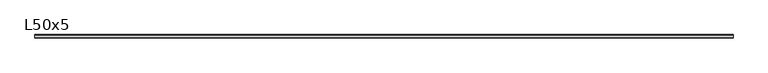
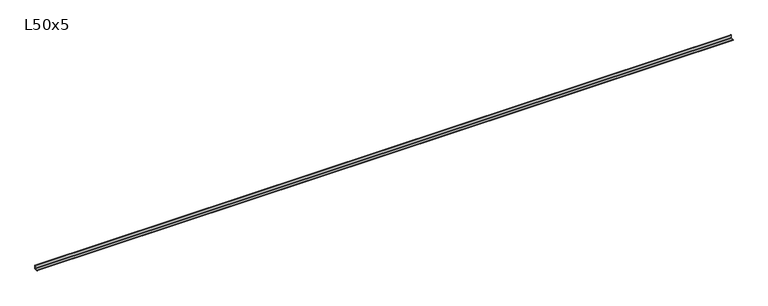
"""IFC4 building model written with IfcOpenShell, lengths in millimetres: beam geometry, Cornière à ailes égales : L50x5."""

from ifc_helpers import new_model, si_unit, point, frame, frame_2d, origin, place, context, project, spatial, polyline, circle_curve, trimmed, segment, composite_curve, outline, extrude, source, transform, mapped, element, save


def l50x5_54bbfbbe(model_context):
    return source(origin(), model_context, "Body", "SweptSolid", [
        extrude(outline(composite_curve([segment(polyline([(14.0, -14.0), (-36.0, -14.0), (-36.0, -12.5)]), True, "CONTINUOUS"), segment(trimmed(circle_curve(frame_2d((-32.5, -12.5)), 3.5), [point((-36.0, -12.5))], [point((-32.5, -9.0))], False, "CARTESIAN"), True, "CONTINUOUS"), segment(polyline([(-32.5, -9.0), (2.0, -9.0)]), True, "CONTINUOUS"), segment(trimmed(circle_curve(frame_2d((2.0, -2.0)), 7.0), [point((2.0, -9.0))], [point((9.0, -2.0))], True, "CARTESIAN"), True, "CONTINUOUS"), segment(polyline([(9.0, -2.0), (9.0, 32.5)]), True, "CONTINUOUS"), segment(trimmed(circle_curve(frame_2d((12.5, 32.5)), 3.5), [point((9.0, 32.5))], [point((12.5, 36.0))], False, "CARTESIAN"), True, "CONTINUOUS"), segment(polyline([(12.5, 36.0), (14.0, 36.0), (14.0, -14.0)]), True, "CONTINUOUS")], self_intersect=False)), frame((-4911.3, 0.0, 0.0), z_axis=(1.0, 0.0, 0.0), x_axis=(0.0, 1.0, 0.0)), (0.0, 0.0, 1.0), 9822.6),
    ])


if __name__ == "__main__":
    model = new_model("IFC4")
    model_context = context("Model", 3, world=origin())
    ifc_project = project(units=[si_unit("LENGTHUNIT", "METRE", prefix="MILLI")], contexts=[model_context])
    site = spatial("IfcSite", under=ifc_project)
    building = spatial("IfcBuilding", under=site)
    placement = place(None, origin())
    l50x5_shape = l50x5_54bbfbbe(model_context)
    element("IfcBeam", 1, ObjectType="Cornière à ailes égales : L50x5", at=placement, inside=building, context=model_context, shape_type="MappedRepresentation", body=[
        mapped(l50x5_shape, transform((0.0, 0.0, 0.0), x_axis=(1.0, 0.0, 0.0), y_axis=(0.0, 1.0, 0.0), z_axis=(0.0, 0.0, 1.0))),
    ])
    save(model, "model.ifc")
